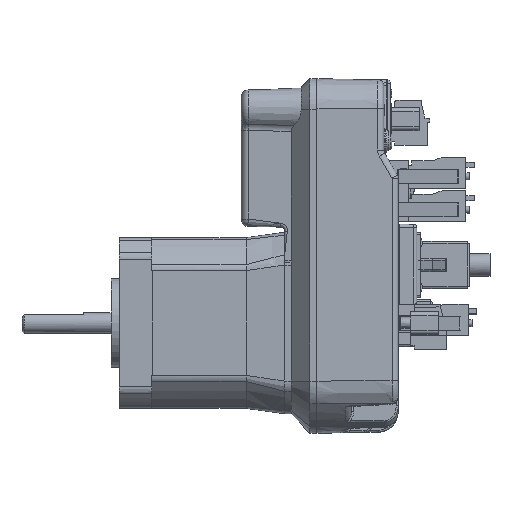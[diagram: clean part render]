
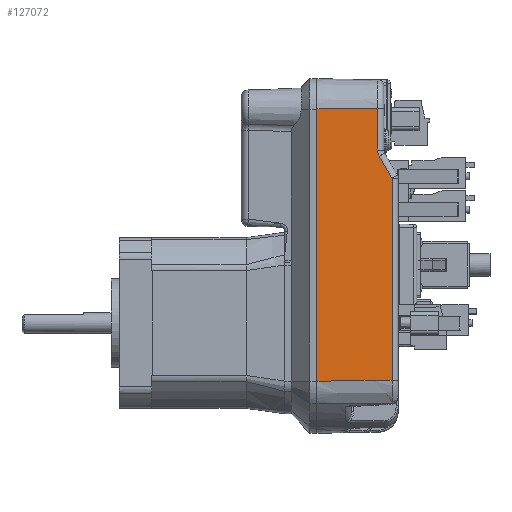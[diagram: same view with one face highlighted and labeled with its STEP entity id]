
A CAD part, left-side view. The second image highlights one B-rep face of the part: STEP entity #127072.
In plain terms, the highlighted planar face has unit normal (-1, -0.018, 0).
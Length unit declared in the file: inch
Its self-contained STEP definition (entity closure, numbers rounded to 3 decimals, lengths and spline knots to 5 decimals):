
#47490=CARTESIAN_POINT('',(-1.02901,0.64938,-0.56493));
#47491=VERTEX_POINT('',#47490);
#47501=CARTESIAN_POINT('',(-1.02901,0.64938,2.08422));
#47502=VERTEX_POINT('',#47501);
#47503=CARTESIAN_POINT('',(-1.02901,0.64938,0.07325));
#47504=DIRECTION('',(0.,0.,-1.));
#47505=VECTOR('',#47504,1.);
#47506=LINE('',#47503,#47505);
#47507=EDGE_CURVE('',#47502,#47491,#47506,.T.);
#76118=CARTESIAN_POINT('',(-1.01626,-0.08092,-0.56028));
#76119=VERTEX_POINT('',#76118);
#76127=CARTESIAN_POINT('',(-80.61903,4560.35857,-0.56267));
#76128=DIRECTION('',(1.,0.017,0.));
#76129=DIRECTION('',(-0.017,1.,0.));
#76130=AXIS2_PLACEMENT_3D('',#76127,#76128,#76129);
#76131=ELLIPSE('',#76130,4608.78781,4.17673);
#76132=EDGE_CURVE('',#76119,#47491,#76131,.T.);
#113503=CARTESIAN_POINT('',(-1.01626,-0.08092,1.40851));
#113504=VERTEX_POINT('',#113503);
#118927=CARTESIAN_POINT('',(-1.01842,0.04288,1.62293));
#118928=VERTEX_POINT('',#118927);
#118936=CARTESIAN_POINT('',(-1.01287,-0.27486,1.07261));
#118937=DIRECTION('',(-0.009,0.5,0.866));
#118938=VECTOR('',#118937,1.);
#118939=LINE('',#118936,#118938);
#118940=EDGE_CURVE('',#113504,#118928,#118939,.T.);
#118950=CARTESIAN_POINT('',(-1.01626,-0.08092,0.00885));
#118951=DIRECTION('',(0.,0.,-1.));
#118952=VECTOR('',#118951,1.);
#118953=LINE('',#118950,#118952);
#118954=EDGE_CURVE('',#113504,#76119,#118953,.T.);
#126965=CARTESIAN_POINT('',(-1.0187,0.05895,1.68293));
#126966=VERTEX_POINT('',#126965);
#126976=CARTESIAN_POINT('',(-1.0187,0.05895,1.68293));
#126977=CARTESIAN_POINT('',(-1.0187,0.05895,1.67674));
#126978=CARTESIAN_POINT('',(-1.01869,0.05847,1.67054));
#126979=CARTESIAN_POINT('',(-1.01865,0.05611,1.65545));
#126980=CARTESIAN_POINT('',(-1.01861,0.05369,1.64664));
#126981=CARTESIAN_POINT('',(-1.01851,0.0482,1.63296));
#126982=CARTESIAN_POINT('',(-1.01847,0.04571,1.62785));
#126983=CARTESIAN_POINT('',(-1.01842,0.04288,1.62293));
#126984=B_SPLINE_CURVE_WITH_KNOTS('',3,(#126976,#126977,#126978,#126979,#126980,#126981,#126982,#126983),.UNSPECIFIED.,.F.,.F.,(4,2,2,4),(0.,0.15494,0.38181,0.5236),.UNSPECIFIED.);
#126985=EDGE_CURVE('',#126966,#118928,#126984,.T.);
#127047=ORIENTED_EDGE('',*,*,#47507,.T.);
#127048=ORIENTED_EDGE('',*,*,#76132,.F.);
#127049=ORIENTED_EDGE('',*,*,#118954,.F.);
#127050=ORIENTED_EDGE('',*,*,#118940,.T.);
#127051=ORIENTED_EDGE('',*,*,#126985,.F.);
#127052=CARTESIAN_POINT('',(-1.0187,0.05895,2.08406));
#127053=VERTEX_POINT('',#127052);
#127054=CARTESIAN_POINT('',(-1.0187,0.05895,0.55015));
#127055=DIRECTION('',(0.,0.,-1.));
#127056=VECTOR('',#127055,1.);
#127057=LINE('',#127054,#127056);
#127058=EDGE_CURVE('',#127053,#126966,#127057,.T.);
#127059=ORIENTED_EDGE('',*,*,#127058,.F.);
#127060=CARTESIAN_POINT('',(-1.01871,0.05895,2.08406));
#127061=CARTESIAN_POINT('',(-1.02901,0.64938,2.08422));
#127062=B_SPLINE_CURVE_WITH_KNOTS('',1,(#127060,#127061),.UNSPECIFIED.,.F.,.F.,(2,2),(0.14161,0.73092),.UNSPECIFIED.);
#127063=EDGE_CURVE('',#127053,#47502,#127062,.T.);
#127064=ORIENTED_EDGE('',*,*,#127063,.T.);
#127065=EDGE_LOOP('',(#127047,#127048,#127049,#127050,#127051,#127059,#127064));
#127066=FACE_OUTER_BOUND('',#127065,.T.);
#127067=CARTESIAN_POINT('',(-1.02912,0.65588,-0.03685));
#127068=DIRECTION('',(1.,0.017,0.));
#127069=DIRECTION('',(0.,0.,1.));
#127070=AXIS2_PLACEMENT_3D('',#127067,#127068,#127069);
#127071=PLANE('',#127070);
#127072=ADVANCED_FACE('',(#127066),#127071,.F.);
